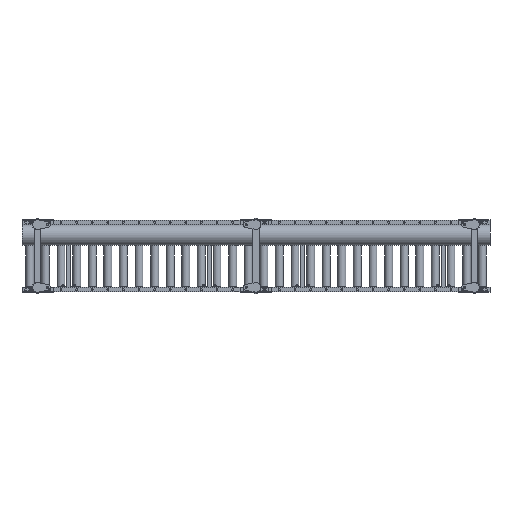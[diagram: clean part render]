
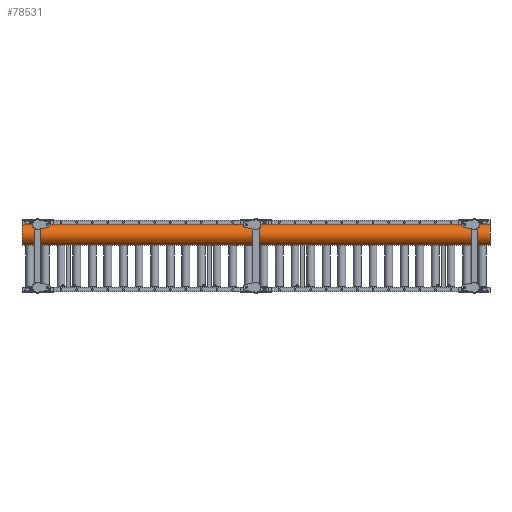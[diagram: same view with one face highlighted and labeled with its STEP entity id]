
A CAD part, front view. The second image highlights one B-rep face of the part: STEP entity #78531.
In plain terms, the highlighted cylindrical face has radius 66.89 mm (diameter 133.78 mm), a partial arc.
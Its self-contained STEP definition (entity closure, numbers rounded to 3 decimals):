
#1154 = LINE ( 'NONE', #155875, #142994 ) ;
#3235 = ORIENTED_EDGE ( 'NONE', *, *, #155099, .T. ) ;
#6269 = DIRECTION ( 'NONE',  ( 0., 0., -1. ) ) ;
#6837 = CIRCLE ( 'NONE', #88066, 66.89 ) ;
#21534 = ORIENTED_EDGE ( 'NONE', *, *, #23613, .F. ) ;
#23099 = VERTEX_POINT ( 'NONE', #69189 ) ;
#23613 = EDGE_CURVE ( 'NONE', #23099, #168738, #135060, .T. ) ;
#25597 = EDGE_CURVE ( 'NONE', #168738, #167643, #6837, .T. ) ;
#29594 = EDGE_CURVE ( 'NONE', #39395, #23099, #82492, .T. ) ;
#32037 = DIRECTION ( 'NONE',  ( -1., 0., 0. ) ) ;
#39395 = VERTEX_POINT ( 'NONE', #79294 ) ;
#45196 = CARTESIAN_POINT ( 'NONE',  ( 0., -150., 135.11 ) ) ;
#46448 = ORIENTED_EDGE ( 'NONE', *, *, #29594, .F. ) ;
#47553 = DIRECTION ( 'NONE',  ( 0., 0., -1. ) ) ;
#52070 = CARTESIAN_POINT ( 'NONE',  ( 0., -150., 68.22 ) ) ;
#67218 = CARTESIAN_POINT ( 'NONE',  ( -3177.652, -150., 202. ) ) ;
#67569 = ORIENTED_EDGE ( 'NONE', *, *, #25597, .F. ) ;
#69189 = CARTESIAN_POINT ( 'NONE',  ( -3000., -150., 202. ) ) ;
#73364 = DIRECTION ( 'NONE',  ( 1., 0., 0. ) ) ;
#78531 = ADVANCED_FACE ( 'NONE', ( #91851 ), #154121, .T. ) ;
#79294 = CARTESIAN_POINT ( 'NONE',  ( -3000., -150., 68.22 ) ) ;
#82492 = CIRCLE ( 'NONE', #107098, 66.89 ) ;
#87155 = CARTESIAN_POINT ( 'NONE',  ( -3000., -150., 135.11 ) ) ;
#88066 = AXIS2_PLACEMENT_3D ( 'NONE', #45196, #73364, #168277 ) ;
#88513 = DIRECTION ( 'NONE',  ( 1., 0., 0. ) ) ;
#91851 = FACE_OUTER_BOUND ( 'NONE', #96080, .T. ) ;
#96080 = EDGE_LOOP ( 'NONE', ( #46448, #3235, #67569, #21534 ) ) ;
#98475 = VECTOR ( 'NONE', #175315, 1000. ) ;
#107098 = AXIS2_PLACEMENT_3D ( 'NONE', #87155, #32037, #47553 ) ;
#113747 = DIRECTION ( 'NONE',  ( 1., 0., 0. ) ) ;
#135060 = LINE ( 'NONE', #67218, #98475 ) ;
#142524 = CARTESIAN_POINT ( 'NONE',  ( -3177.652, -150., 135.11 ) ) ;
#142994 = VECTOR ( 'NONE', #88513, 1000. ) ;
#154121 = CYLINDRICAL_SURFACE ( 'NONE', #170427, 66.89 ) ;
#155099 = EDGE_CURVE ( 'NONE', #39395, #167643, #1154, .T. ) ;
#155875 = CARTESIAN_POINT ( 'NONE',  ( -3177.652, -150., 68.22 ) ) ;
#167643 = VERTEX_POINT ( 'NONE', #52070 ) ;
#168277 = DIRECTION ( 'NONE',  ( 0., 0., 1. ) ) ;
#168738 = VERTEX_POINT ( 'NONE', #171873 ) ;
#170427 = AXIS2_PLACEMENT_3D ( 'NONE', #142524, #113747, #6269 ) ;
#171873 = CARTESIAN_POINT ( 'NONE',  ( 0., -150., 202. ) ) ;
#175315 = DIRECTION ( 'NONE',  ( 1., 0., 0. ) ) ;
